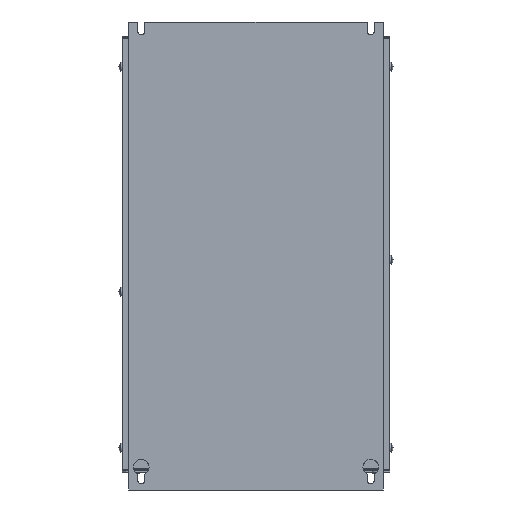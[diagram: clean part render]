
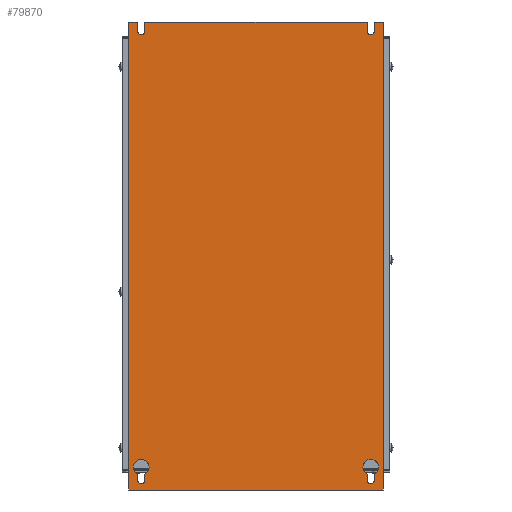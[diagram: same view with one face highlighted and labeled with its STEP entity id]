
A CAD part, front view. The second image highlights one B-rep face of the part: STEP entity #79870.
In plain terms, the highlighted planar face has unit normal (0, -1, 0).
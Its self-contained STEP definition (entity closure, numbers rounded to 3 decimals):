
#34564=DIRECTION('',(1.,0.,0.));
#34565=VECTOR('',#34564,228.8);
#34566=CARTESIAN_POINT('',(-221.8,-100.,-331.6));
#34567=LINE('',#34566,#34565);
#34734=DIRECTION('',(0.,0.,-1.));
#34735=VECTOR('',#34734,5.675);
#34736=CARTESIAN_POINT('',(-1.4,-100.,-317.425));
#34737=LINE('',#34736,#34735);
#34754=DIRECTION('',(0.,0.,1.));
#34755=VECTOR('',#34754,5.675);
#34756=CARTESIAN_POINT('',(-7.4,-100.,-323.1));
#34757=LINE('',#34756,#34755);
#34766=DIRECTION('',(0.,0.,-1.));
#34767=VECTOR('',#34766,8.5);
#34768=CARTESIAN_POINT('',(-7.4,-100.,88.4));
#34769=LINE('',#34768,#34767);
#34770=CARTESIAN_POINT('',(-4.4,-100.,79.9));
#34771=DIRECTION('',(0.,-1.,0.));
#34772=DIRECTION('',(-1.,0.,0.));
#34773=AXIS2_PLACEMENT_3D('',#34770,#34771,#34772);
#34775=DIRECTION('',(1.,0.,0.));
#34776=VECTOR('',#34775,8.4);
#34777=CARTESIAN_POINT('',(-1.4,-100.,88.4));
#34778=LINE('',#34777,#34776);
#34779=DIRECTION('',(0.,0.,-1.));
#34780=VECTOR('',#34779,420.);
#34781=CARTESIAN_POINT('',(7.,-100.,88.4));
#34782=LINE('',#34781,#34780);
#34783=DIRECTION('',(1.,0.,0.));
#34784=VECTOR('',#34783,8.4);
#34785=CARTESIAN_POINT('',(-221.8,-100.,88.4));
#34786=LINE('',#34785,#34784);
#34787=DIRECTION('',(0.,0.,-1.));
#34788=VECTOR('',#34787,8.5);
#34789=CARTESIAN_POINT('',(-213.4,-100.,88.4));
#34790=LINE('',#34789,#34788);
#34791=CARTESIAN_POINT('',(-210.4,-100.,79.9));
#34792=DIRECTION('',(0.,-1.,0.));
#34793=DIRECTION('',(-1.,0.,0.));
#34794=AXIS2_PLACEMENT_3D('',#34791,#34792,#34793);
#34796=DIRECTION('',(1.,0.,0.));
#34797=VECTOR('',#34796,200.);
#34798=CARTESIAN_POINT('',(-207.4,-100.,88.4));
#34799=LINE('',#34798,#34797);
#34800=CARTESIAN_POINT('',(-210.4,-100.,-323.1));
#34801=DIRECTION('',(0.,-1.,0.));
#34802=DIRECTION('',(-1.,0.,0.));
#34803=AXIS2_PLACEMENT_3D('',#34800,#34801,#34802);
#34805=CARTESIAN_POINT('',(-210.4,-100.,-311.1));
#34806=DIRECTION('',(0.,-1.,0.));
#34807=DIRECTION('',(0.429,0.,-0.904));
#34808=AXIS2_PLACEMENT_3D('',#34805,#34806,#34807);
#34810=CARTESIAN_POINT('',(-210.4,-100.,-311.1));
#34811=DIRECTION('',(0.,-1.,0.));
#34812=DIRECTION('',(1.,0.,0.));
#34813=AXIS2_PLACEMENT_3D('',#34810,#34811,#34812);
#34815=CARTESIAN_POINT('',(-210.4,-100.,-311.1));
#34816=DIRECTION('',(0.,-1.,0.));
#34817=DIRECTION('',(0.429,0.,0.904));
#34818=AXIS2_PLACEMENT_3D('',#34815,#34816,#34817);
#34820=CARTESIAN_POINT('',(-210.4,-100.,-311.1));
#34821=DIRECTION('',(0.,-1.,0.));
#34822=DIRECTION('',(-1.,0.,0.));
#34823=AXIS2_PLACEMENT_3D('',#34820,#34821,#34822);
#34825=CARTESIAN_POINT('',(-4.4,-100.,-311.1));
#34826=DIRECTION('',(0.,-1.,0.));
#34827=DIRECTION('',(-1.,0.,0.));
#34828=AXIS2_PLACEMENT_3D('',#34825,#34826,#34827);
#34830=CARTESIAN_POINT('',(-4.4,-100.,-323.1));
#34831=DIRECTION('',(0.,-1.,0.));
#34832=DIRECTION('',(-1.,0.,0.));
#34833=AXIS2_PLACEMENT_3D('',#34830,#34831,#34832);
#34835=CARTESIAN_POINT('',(-4.4,-100.,-311.1));
#34836=DIRECTION('',(0.,-1.,0.));
#34837=DIRECTION('',(0.429,0.,-0.904));
#34838=AXIS2_PLACEMENT_3D('',#34835,#34836,#34837);
#34840=CARTESIAN_POINT('',(-4.4,-100.,-311.1));
#34841=DIRECTION('',(0.,-1.,0.));
#34842=DIRECTION('',(1.,0.,0.));
#34843=AXIS2_PLACEMENT_3D('',#34840,#34841,#34842);
#34845=CARTESIAN_POINT('',(-4.4,-100.,-311.1));
#34846=DIRECTION('',(0.,-1.,0.));
#34847=DIRECTION('',(0.429,0.,0.904));
#34848=AXIS2_PLACEMENT_3D('',#34845,#34846,#34847);
#34920=DIRECTION('',(0.,0.,-1.));
#34921=VECTOR('',#34920,420.);
#34922=CARTESIAN_POINT('',(-221.8,-100.,88.4));
#34923=LINE('',#34922,#34921);
#35084=DIRECTION('',(0.,0.,-1.));
#35085=VECTOR('',#35084,8.5);
#35086=CARTESIAN_POINT('',(-207.4,-100.,88.4));
#35087=LINE('',#35086,#35085);
#35354=DIRECTION('',(0.,0.,-1.));
#35355=VECTOR('',#35354,8.5);
#35356=CARTESIAN_POINT('',(-1.4,-100.,88.4));
#35357=LINE('',#35356,#35355);
#35528=DIRECTION('',(0.,0.,-1.));
#35529=VECTOR('',#35528,5.675);
#35530=CARTESIAN_POINT('',(-207.4,-100.,-317.425));
#35531=LINE('',#35530,#35529);
#35580=DIRECTION('',(0.,0.,1.));
#35581=VECTOR('',#35580,5.675);
#35582=CARTESIAN_POINT('',(-213.4,-100.,-323.1));
#35583=LINE('',#35582,#35581);
#45696=CARTESIAN_POINT('',(-221.8,-100.,-331.6));
#45697=VERTEX_POINT('',#45696);
#45698=CARTESIAN_POINT('',(7.,-100.,-331.6));
#45699=VERTEX_POINT('',#45698);
#45768=CARTESIAN_POINT('',(-1.4,-100.,-317.425));
#45769=VERTEX_POINT('',#45768);
#45770=CARTESIAN_POINT('',(-1.4,-100.,-323.1));
#45771=VERTEX_POINT('',#45770);
#45772=CARTESIAN_POINT('',(2.6,-100.,-311.1));
#45773=VERTEX_POINT('',#45772);
#45774=CARTESIAN_POINT('',(-11.4,-100.,-311.1));
#45775=VERTEX_POINT('',#45774);
#45776=CARTESIAN_POINT('',(-1.4,-100.,-304.775));
#45777=VERTEX_POINT('',#45776);
#45778=CARTESIAN_POINT('',(-7.4,-100.,-317.425));
#45779=VERTEX_POINT('',#45778);
#45780=CARTESIAN_POINT('',(-7.4,-100.,-323.1));
#45781=VERTEX_POINT('',#45780);
#45782=CARTESIAN_POINT('',(-7.4,-100.,88.4));
#45783=CARTESIAN_POINT('',(-7.4,-100.,79.9));
#45784=VERTEX_POINT('',#45782);
#45785=VERTEX_POINT('',#45783);
#45786=CARTESIAN_POINT('',(-1.4,-100.,79.9));
#45787=VERTEX_POINT('',#45786);
#45788=CARTESIAN_POINT('',(-1.4,-100.,88.4));
#45789=VERTEX_POINT('',#45788);
#45790=CARTESIAN_POINT('',(7.,-100.,88.4));
#45791=VERTEX_POINT('',#45790);
#45792=CARTESIAN_POINT('',(-221.8,-100.,88.4));
#45793=VERTEX_POINT('',#45792);
#45794=CARTESIAN_POINT('',(-213.4,-100.,88.4));
#45795=VERTEX_POINT('',#45794);
#45796=CARTESIAN_POINT('',(-213.4,-100.,79.9));
#45797=VERTEX_POINT('',#45796);
#45798=CARTESIAN_POINT('',(-207.4,-100.,79.9));
#45799=VERTEX_POINT('',#45798);
#45800=CARTESIAN_POINT('',(-207.4,-100.,88.4));
#45801=VERTEX_POINT('',#45800);
#45802=CARTESIAN_POINT('',(-213.4,-100.,-323.1));
#45803=CARTESIAN_POINT('',(-207.4,-100.,-323.1));
#45804=VERTEX_POINT('',#45802);
#45805=VERTEX_POINT('',#45803);
#45806=CARTESIAN_POINT('',(-207.4,-100.,-317.425));
#45807=VERTEX_POINT('',#45806);
#45808=CARTESIAN_POINT('',(-203.4,-100.,-311.1));
#45809=VERTEX_POINT('',#45808);
#45810=CARTESIAN_POINT('',(-207.4,-100.,-304.775));
#45811=VERTEX_POINT('',#45810);
#45812=CARTESIAN_POINT('',(-217.4,-100.,-311.1));
#45813=VERTEX_POINT('',#45812);
#45814=CARTESIAN_POINT('',(-213.4,-100.,-317.425));
#45815=VERTEX_POINT('',#45814);
#79815=CARTESIAN_POINT('',(-221.8,-100.,88.4));
#79816=DIRECTION('',(0.,-1.,0.));
#79817=DIRECTION('',(0.,0.,-1.));
#79818=AXIS2_PLACEMENT_3D('',#79815,#79816,#79817);
#79819=PLANE('',#79818);
#79821=ORIENTED_EDGE('',*,*,#79820,.T.);
#79823=ORIENTED_EDGE('',*,*,#79822,.T.);
#79825=ORIENTED_EDGE('',*,*,#79824,.F.);
#79827=ORIENTED_EDGE('',*,*,#79826,.T.);
#79829=ORIENTED_EDGE('',*,*,#79828,.T.);
#79830=ORIENTED_EDGE('',*,*,#79569,.F.);
#79832=ORIENTED_EDGE('',*,*,#79831,.F.);
#79834=ORIENTED_EDGE('',*,*,#79833,.T.);
#79836=ORIENTED_EDGE('',*,*,#79835,.T.);
#79838=ORIENTED_EDGE('',*,*,#79837,.T.);
#79840=ORIENTED_EDGE('',*,*,#79839,.F.);
#79842=ORIENTED_EDGE('',*,*,#79841,.T.);
#79843=EDGE_LOOP('',(#79821,#79823,#79825,#79827,#79829,#79830,#79832,#79834,
#79836,#79838,#79840,#79842));
#79844=FACE_OUTER_BOUND('',#79843,.F.);
#79846=ORIENTED_EDGE('',*,*,#79845,.T.);
#79848=ORIENTED_EDGE('',*,*,#79847,.F.);
#79850=ORIENTED_EDGE('',*,*,#79849,.T.);
#79852=ORIENTED_EDGE('',*,*,#79851,.T.);
#79854=ORIENTED_EDGE('',*,*,#79853,.T.);
#79856=ORIENTED_EDGE('',*,*,#79855,.T.);
#79858=ORIENTED_EDGE('',*,*,#79857,.F.);
#79859=EDGE_LOOP('',(#79846,#79848,#79850,#79852,#79854,#79856,#79858));
#79860=FACE_BOUND('',#79859,.F.);
#79861=ORIENTED_EDGE('',*,*,#79780,.T.);
#79862=ORIENTED_EDGE('',*,*,#79793,.F.);
#79863=ORIENTED_EDGE('',*,*,#79809,.T.);
#79864=ORIENTED_EDGE('',*,*,#79732,.F.);
#79865=ORIENTED_EDGE('',*,*,#79748,.T.);
#79866=ORIENTED_EDGE('',*,*,#79766,.T.);
#79867=ORIENTED_EDGE('',*,*,#79764,.T.);
#79868=EDGE_LOOP('',(#79861,#79862,#79863,#79864,#79865,#79866,#79867));
#79869=FACE_BOUND('',#79868,.F.);
#34774=CIRCLE('',#34773,3.);
#34795=CIRCLE('',#34794,3.);
#34804=CIRCLE('',#34803,3.);
#34809=CIRCLE('',#34808,7.);
#34814=CIRCLE('',#34813,7.);
#34819=CIRCLE('',#34818,7.);
#34824=CIRCLE('',#34823,7.);
#34829=CIRCLE('',#34828,7.);
#34834=CIRCLE('',#34833,3.);
#34839=CIRCLE('',#34838,7.);
#34844=CIRCLE('',#34843,7.);
#34849=CIRCLE('',#34848,7.);
#79569=EDGE_CURVE('',#45697,#45699,#34567,.T.);
#79732=EDGE_CURVE('',#45769,#45771,#34737,.T.);
#79748=EDGE_CURVE('',#45769,#45773,#34839,.T.);
#79764=EDGE_CURVE('',#45777,#45775,#34849,.T.);
#79766=EDGE_CURVE('',#45773,#45777,#34844,.T.);
#79780=EDGE_CURVE('',#45775,#45779,#34829,.T.);
#79793=EDGE_CURVE('',#45781,#45779,#34757,.T.);
#79809=EDGE_CURVE('',#45781,#45771,#34834,.T.);
#79820=EDGE_CURVE('',#45784,#45785,#34769,.T.);
#79822=EDGE_CURVE('',#45785,#45787,#34774,.T.);
#79824=EDGE_CURVE('',#45789,#45787,#35357,.T.);
#79826=EDGE_CURVE('',#45789,#45791,#34778,.T.);
#79828=EDGE_CURVE('',#45791,#45699,#34782,.T.);
#79831=EDGE_CURVE('',#45793,#45697,#34923,.T.);
#79833=EDGE_CURVE('',#45793,#45795,#34786,.T.);
#79835=EDGE_CURVE('',#45795,#45797,#34790,.T.);
#79837=EDGE_CURVE('',#45797,#45799,#34795,.T.);
#79839=EDGE_CURVE('',#45801,#45799,#35087,.T.);
#79841=EDGE_CURVE('',#45801,#45784,#34799,.T.);
#79845=EDGE_CURVE('',#45804,#45805,#34804,.T.);
#79847=EDGE_CURVE('',#45807,#45805,#35531,.T.);
#79849=EDGE_CURVE('',#45807,#45809,#34809,.T.);
#79851=EDGE_CURVE('',#45809,#45811,#34814,.T.);
#79853=EDGE_CURVE('',#45811,#45813,#34819,.T.);
#79855=EDGE_CURVE('',#45813,#45815,#34824,.T.);
#79857=EDGE_CURVE('',#45804,#45815,#35583,.T.);
#79870=ADVANCED_FACE('',(#79844,#79860,#79869),#79819,.T.);
